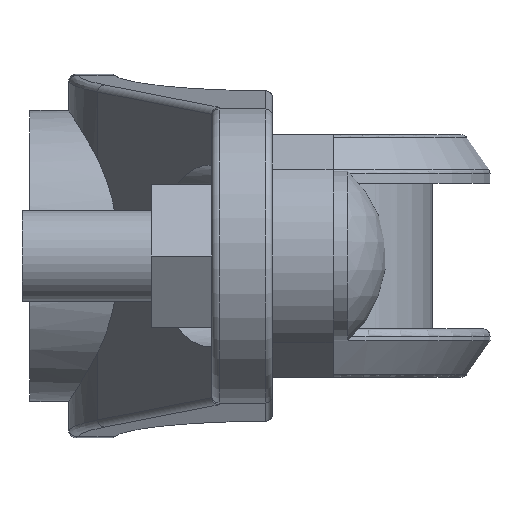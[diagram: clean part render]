
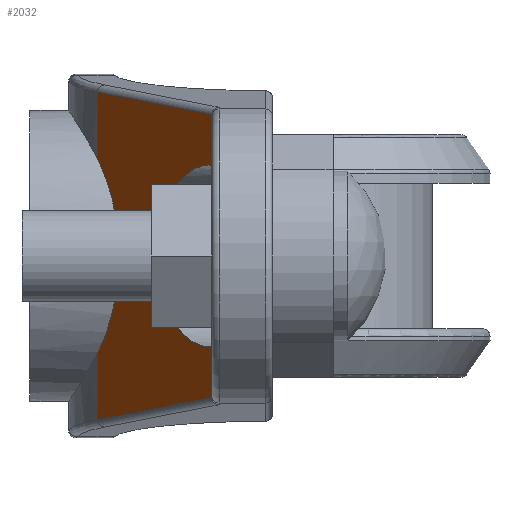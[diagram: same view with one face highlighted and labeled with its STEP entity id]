
A CAD part, left-side view. The second image highlights one B-rep face of the part: STEP entity #2032.
In plain terms, the highlighted planar face has unit normal (-0.5, 0.866, 0).
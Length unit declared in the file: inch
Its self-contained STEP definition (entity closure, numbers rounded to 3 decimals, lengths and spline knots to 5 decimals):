
#99=PLANE('',#2236);
#225=FACE_OUTER_BOUND('',#333,.T.);
#333=EDGE_LOOP('',(#1667,#1668,#1669,#1670,#1671,#1672,#1673,#1674,#1675,
#1676));
#371=ELLIPSE('',#2105,0.06038,0.03);
#372=ELLIPSE('',#2111,0.06038,0.03);
#382=ELLIPSE('',#2233,0.69282,0.6);
#384=ELLIPSE('',#2237,0.43301,0.375);
#474=LINE('',#2894,#621);
#483=LINE('',#3016,#630);
#490=LINE('',#3123,#637);
#491=LINE('',#3126,#638);
#503=LINE('',#3169,#650);
#597=LINE('',#3679,#744);
#621=VECTOR('',#2303,0.3937);
#630=VECTOR('',#2358,0.3937);
#637=VECTOR('',#2403,0.3937);
#638=VECTOR('',#2406,0.3937);
#650=VECTOR('',#2420,0.3937);
#744=VECTOR('',#2744,0.3937);
#768=VERTEX_POINT('',#2892);
#769=VERTEX_POINT('',#2893);
#788=VERTEX_POINT('',#3007);
#791=VERTEX_POINT('',#3015);
#792=VERTEX_POINT('',#3019);
#797=VERTEX_POINT('',#3034);
#804=VERTEX_POINT('',#3122);
#805=VERTEX_POINT('',#3124);
#817=VERTEX_POINT('',#3150);
#928=VERTEX_POINT('',#3655);
#955=EDGE_CURVE('',#768,#769,#474,.T.);
#984=EDGE_CURVE('',#788,#791,#483,.T.);
#989=EDGE_CURVE('',#791,#792,#371,.T.);
#995=EDGE_CURVE('',#797,#768,#372,.T.);
#1007=EDGE_CURVE('',#792,#804,#490,.T.);
#1009=EDGE_CURVE('',#805,#797,#491,.T.);
#1022=EDGE_CURVE('',#788,#817,#503,.T.);
#1188=EDGE_CURVE('',#817,#928,#382,.T.);
#1190=EDGE_CURVE('',#805,#804,#384,.T.);
#1191=EDGE_CURVE('',#928,#769,#597,.T.);
#1667=ORIENTED_EDGE('',*,*,#955,.F.);
#1668=ORIENTED_EDGE('',*,*,#995,.F.);
#1669=ORIENTED_EDGE('',*,*,#1009,.F.);
#1670=ORIENTED_EDGE('',*,*,#1190,.T.);
#1671=ORIENTED_EDGE('',*,*,#1007,.F.);
#1672=ORIENTED_EDGE('',*,*,#989,.F.);
#1673=ORIENTED_EDGE('',*,*,#984,.F.);
#1674=ORIENTED_EDGE('',*,*,#1022,.T.);
#1675=ORIENTED_EDGE('',*,*,#1188,.T.);
#1676=ORIENTED_EDGE('',*,*,#1191,.T.);
#2032=ADVANCED_FACE('',(#225),#99,.F.);
#2105=AXIS2_PLACEMENT_3D('',#3025,#2367,#2368);
#2111=AXIS2_PLACEMENT_3D('',#3036,#2381,#2382);
#2233=AXIS2_PLACEMENT_3D('',#3674,#2734,#2735);
#2236=AXIS2_PLACEMENT_3D('',#3677,#2740,#2741);
#2237=AXIS2_PLACEMENT_3D('',#3678,#2742,#2743);
#2303=DIRECTION('',(0.862,0.498,-0.097));
#2358=DIRECTION('',(-0.862,-0.498,-0.097));
#2367=DIRECTION('center_axis',(-0.5,0.866,0.));
#2368=DIRECTION('ref_axis',(0.859,0.496,0.129));
#2381=DIRECTION('center_axis',(-0.5,0.866,0.));
#2382=DIRECTION('ref_axis',(0.859,0.496,-0.129));
#2403=DIRECTION('',(0.,0.,-1.));
#2406=DIRECTION('',(0.,0.,-1.));
#2420=DIRECTION('',(0.,0.,-1.));
#2734=DIRECTION('center_axis',(0.5,-0.866,0.));
#2735=DIRECTION('ref_axis',(-0.866,-0.5,0.));
#2740=DIRECTION('center_axis',(0.5,-0.866,0.));
#2741=DIRECTION('ref_axis',(0.866,0.5,0.));
#2742=DIRECTION('center_axis',(0.5,-0.866,0.));
#2743=DIRECTION('ref_axis',(-0.866,-0.5,0.));
#2744=DIRECTION('',(0.,0.,-1.));
#2892=CARTESIAN_POINT('',(-1.26315,0.24995,-0.58388));
#2893=CARTESIAN_POINT('',(-0.45,0.71942,-0.67553));
#2894=CARTESIAN_POINT('',(-0.89639,0.4617,-0.62522));
#3007=CARTESIAN_POINT('',(-0.45,0.71942,0.67553));
#3015=CARTESIAN_POINT('',(-1.26315,0.24995,0.58388));
#3016=CARTESIAN_POINT('',(-1.36072,0.19362,0.57288));
#3019=CARTESIAN_POINT('',(-1.26306,0.25,0.5822));
#3025=CARTESIAN_POINT('Origin',(-1.31503,0.22,0.57634));
#3034=CARTESIAN_POINT('',(-1.26306,0.25,-0.5822));
#3036=CARTESIAN_POINT('Origin',(-1.31503,0.22,-0.57634));
#3122=CARTESIAN_POINT('',(-1.26306,0.25,0.37477));
#3123=CARTESIAN_POINT('',(-1.26306,0.25,0.));
#3124=CARTESIAN_POINT('',(-1.26306,0.25,-0.37477));
#3126=CARTESIAN_POINT('',(-1.26306,0.25,0.));
#3150=CARTESIAN_POINT('',(-0.45,0.71942,0.39686));
#3169=CARTESIAN_POINT('',(-0.45,0.71942,0.));
#3655=CARTESIAN_POINT('',(-0.45,0.71942,-0.39686));
#3674=CARTESIAN_POINT('Origin',(0.,0.97923,
0.));
#3677=CARTESIAN_POINT('Origin',(-1.26306,0.25,0.));
#3678=CARTESIAN_POINT('Origin',(-1.25,0.25754,0.));
#3679=CARTESIAN_POINT('',(-0.45,0.71942,0.));
